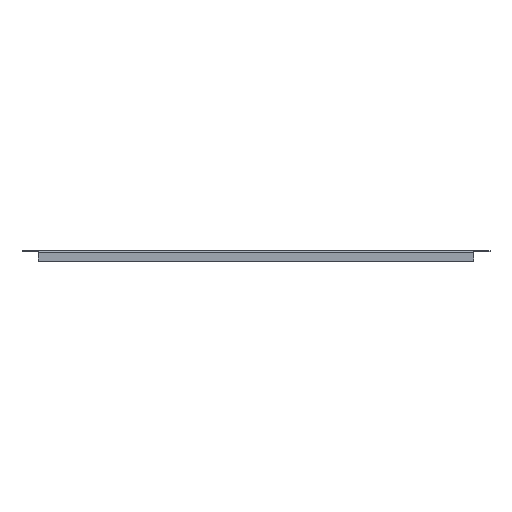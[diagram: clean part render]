
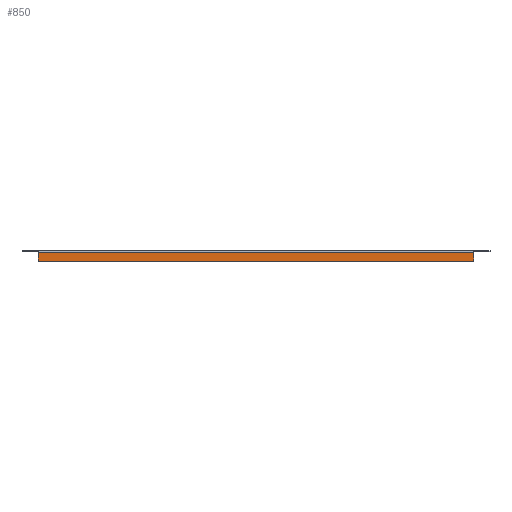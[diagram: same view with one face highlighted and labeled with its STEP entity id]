
A CAD part, front view. The second image highlights one B-rep face of the part: STEP entity #850.
In plain terms, the highlighted planar face has unit normal (0, -1, 0).
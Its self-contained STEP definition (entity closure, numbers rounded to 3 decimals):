
#1 = VERTEX_POINT ( 'NONE', #6 ) ;
#3 = VERTEX_POINT ( 'NONE', #8 ) ;
#4 = VERTEX_POINT ( 'NONE', #9 ) ;
#6 = CARTESIAN_POINT ( 'NONE',  ( -309.5, -199.5, -1.2 ) ) ;
#8 = CARTESIAN_POINT ( 'NONE',  ( 309.5, -199.5, -13.8 ) ) ;
#9 = CARTESIAN_POINT ( 'NONE',  ( -309.5, -199.5, -13.8 ) ) ;
#229 = LINE ( 'NONE', #230, #989 ) ;
#230 = CARTESIAN_POINT ( 'NONE',  ( 309.5, -199.5, -1.2 ) ) ;
#231 = DIRECTION ( 'NONE',  ( 1., 0., 0. ) ) ;
#418 = LINE ( 'NONE', #419, #908 ) ;
#419 = CARTESIAN_POINT ( 'NONE',  ( 309.5, -199.5, 0. ) ) ;
#420 = DIRECTION ( 'NONE',  ( 0., 0., -1. ) ) ;
#429 = LINE ( 'NONE', #430, #742 ) ;
#430 = CARTESIAN_POINT ( 'NONE',  ( 309.5, -199.5, -13.8 ) ) ;
#431 = DIRECTION ( 'NONE',  ( -1., 0., 0. ) ) ;
#451 = PLANE ( 'NONE',  #747 ) ;
#455 = CARTESIAN_POINT ( 'NONE',  ( 309.5, -199.5, 0. ) ) ;
#456 = DIRECTION ( 'NONE',  ( 0., 1., 0. ) ) ;
#457 = DIRECTION ( 'NONE',  ( 0., 0., 1. ) ) ;
#475 = LINE ( 'NONE', #476, #767 ) ;
#476 = CARTESIAN_POINT ( 'NONE',  ( -309.5, -199.5, -13.8 ) ) ;
#477 = DIRECTION ( 'NONE',  ( 0., 0., 1. ) ) ;
#494 = CARTESIAN_POINT ( 'NONE',  ( 309.5, -199.5, -1.2 ) ) ;
#642 = EDGE_CURVE ( 'NONE', #1, #949, #229, .T. ) ;
#742 = VECTOR ( 'NONE', #431, 1000. ) ;
#747 = AXIS2_PLACEMENT_3D ( 'NONE', #455, #456, #457 ) ;
#750 = FACE_OUTER_BOUND ( 'NONE', #1103, .T. ) ;
#767 = VECTOR ( 'NONE', #477, 1000. ) ;
#839 = EDGE_CURVE ( 'NONE', #949, #3, #418, .T. ) ;
#842 = EDGE_CURVE ( 'NONE', #3, #4, #429, .T. ) ;
#850 = ADVANCED_FACE ( 'NONE', ( #750 ), #451, .F. ) ;
#856 = EDGE_CURVE ( 'NONE', #4, #1, #475, .T. ) ;
#908 = VECTOR ( 'NONE', #420, 1000. ) ;
#949 = VERTEX_POINT ( 'NONE', #494 ) ;
#989 = VECTOR ( 'NONE', #231, 1000. ) ;
#1103 = EDGE_LOOP ( 'NONE', ( #1181, #1131, #1183, #1125 ) ) ;
#1125 = ORIENTED_EDGE ( 'NONE', *, *, #839, .F. ) ;
#1131 = ORIENTED_EDGE ( 'NONE', *, *, #856, .F. ) ;
#1181 = ORIENTED_EDGE ( 'NONE', *, *, #642, .F. ) ;
#1183 = ORIENTED_EDGE ( 'NONE', *, *, #842, .F. ) ;
